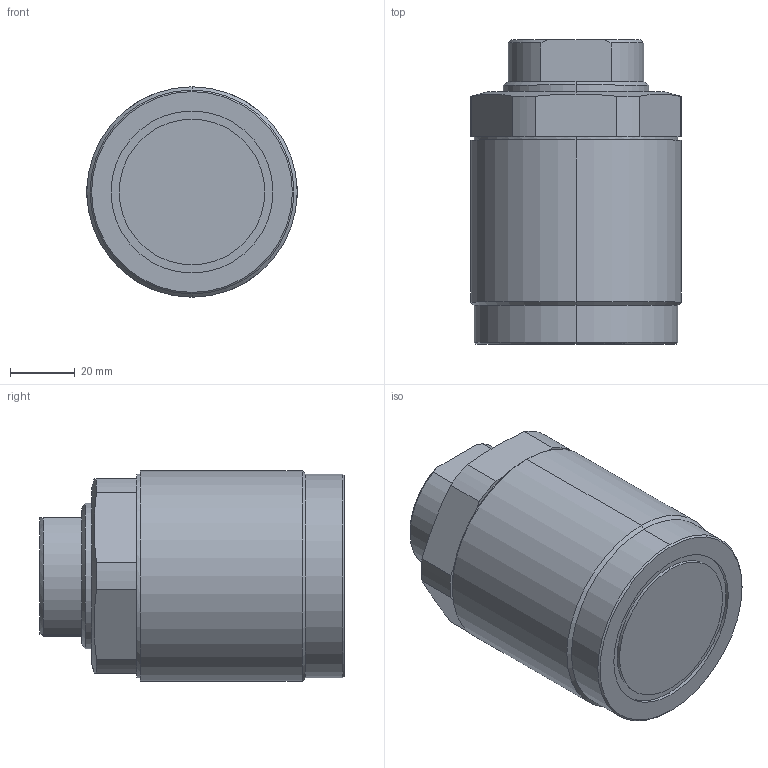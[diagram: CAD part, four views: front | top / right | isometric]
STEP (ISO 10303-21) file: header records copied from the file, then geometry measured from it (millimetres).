
FILE_DESCRIPTION (( 'STEP AP203' ), '1' );
FILE_NAME ('T03C-M657-M threaded pusher.STEP', '2022-07-09T17:47:02', ( '' ), ( '' ), 'SwSTEP 2.0', 'SolidWorks 2017', '' );
FILE_SCHEMA (( 'CONFIG_CONTROL_DESIGN' ));
Length unit declared in the file: millimetre
Products named in the file (3): T03C-M657-M part-1; T03C-M657-M part-2; T03C-M657-M threaded pusher
Assembly tree (2 placements, depth 2):
  T03C-M657-M threaded pusher
    T03C-M657-M part-1
    T03C-M657-M part-2
Bounding box: 65 x 94 x 65 mm (x, y, z)
Volume: 315057.5 mm3; surface area: 32433.4 mm2
Topology: 2 solids, 2 shells, 255 faces, 673 edges, 443 vertices
Faces by surface type: plane 140, bspline 79, cylinder 22, cone 14
Entity records: 12253 total; most frequent: CARTESIAN_POINT 6284, ORIENTED_EDGE 1342, DIRECTION 863, EDGE_CURVE 671, VERTEX_POINT 443, VECTOR 369, LINE 369, EDGE_LOOP 278
